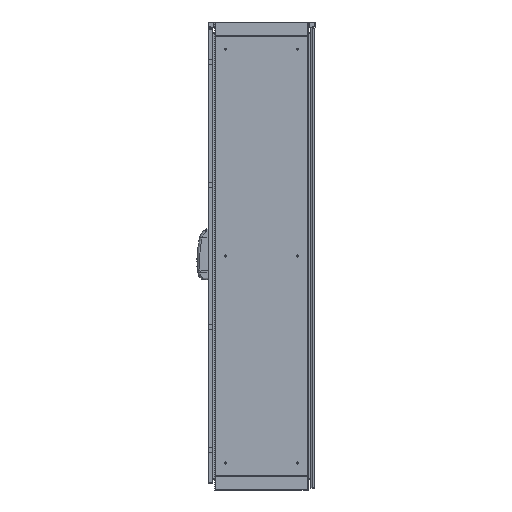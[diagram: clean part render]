
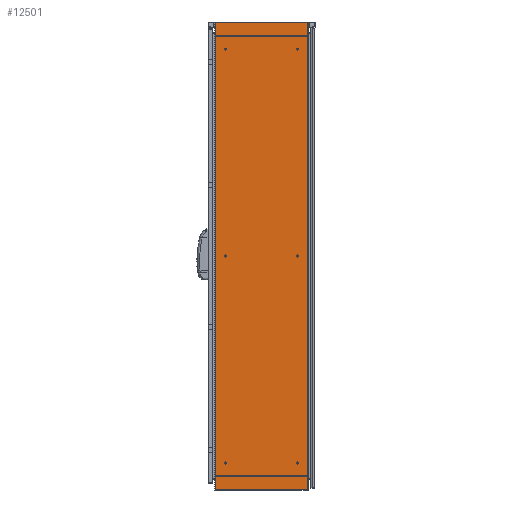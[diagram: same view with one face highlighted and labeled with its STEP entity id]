
A CAD part, left-side view. The second image highlights one B-rep face of the part: STEP entity #12501.
In plain terms, the highlighted planar face has unit normal (-1, 0, 0).
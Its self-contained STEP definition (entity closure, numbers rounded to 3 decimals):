
#1724 = VECTOR ( 'NONE', #23588, 1000. ) ;
#2579 = EDGE_CURVE ( 'NONE', #23163, #63247, #65718, .T. ) ;
#7769 = PLANE ( 'NONE',  #62103 ) ;
#9717 = LINE ( 'NONE', #16600, #54261 ) ;
#12501 = ADVANCED_FACE ( 'NONE', ( #74173 ), #7769, .F. ) ;
#14755 = VERTEX_POINT ( 'NONE', #39971 ) ;
#16600 = CARTESIAN_POINT ( 'NONE',  ( -500., 183.5, 0. ) ) ;
#18676 = CARTESIAN_POINT ( 'NONE',  ( -500., 183.5, 1809. ) ) ;
#21561 = CARTESIAN_POINT ( 'NONE',  ( -500., 179.43, 1809. ) ) ;
#23163 = VERTEX_POINT ( 'NONE', #24157 ) ;
#23277 = ORIENTED_EDGE ( 'NONE', *, *, #59232, .T. ) ;
#23588 = DIRECTION ( 'NONE',  ( 0., -1., 0. ) ) ;
#24157 = CARTESIAN_POINT ( 'NONE',  ( -500., -179.43, 0. ) ) ;
#28048 = DIRECTION ( 'NONE',  ( 0., 0., 1. ) ) ;
#30896 = LINE ( 'NONE', #54384, #1724 ) ;
#31274 = DIRECTION ( 'NONE',  ( 1., 0., 0. ) ) ;
#34200 = DIRECTION ( 'NONE',  ( 0., 0., -1. ) ) ;
#34450 = DIRECTION ( 'NONE',  ( 0., -1., 0. ) ) ;
#36615 = EDGE_CURVE ( 'NONE', #53487, #63247, #30896, .T. ) ;
#37791 = EDGE_CURVE ( 'NONE', #53487, #14755, #72237, .T. ) ;
#39971 = CARTESIAN_POINT ( 'NONE',  ( -500., 179.43, 0. ) ) ;
#40227 = CARTESIAN_POINT ( 'NONE',  ( -500., -179.43, 1809. ) ) ;
#43397 = DIRECTION ( 'NONE',  ( 0., 0., -1. ) ) ;
#46798 = ORIENTED_EDGE ( 'NONE', *, *, #36615, .F. ) ;
#53487 = VERTEX_POINT ( 'NONE', #21561 ) ;
#54261 = VECTOR ( 'NONE', #34450, 1000. ) ;
#54384 = CARTESIAN_POINT ( 'NONE',  ( -500., 183.5, 1809. ) ) ;
#59232 = EDGE_CURVE ( 'NONE', #14755, #23163, #9717, .T. ) ;
#59675 = CARTESIAN_POINT ( 'NONE',  ( -500., -179.43, 1809. ) ) ;
#60079 = CARTESIAN_POINT ( 'NONE',  ( -500., 179.43, 1809. ) ) ;
#62103 = AXIS2_PLACEMENT_3D ( 'NONE', #18676, #31274, #43397 ) ;
#62157 = EDGE_LOOP ( 'NONE', ( #23277, #77605, #46798, #74865 ) ) ;
#63247 = VERTEX_POINT ( 'NONE', #59675 ) ;
#65718 = LINE ( 'NONE', #40227, #66969 ) ;
#66969 = VECTOR ( 'NONE', #28048, 1000. ) ;
#67854 = VECTOR ( 'NONE', #34200, 1000. ) ;
#72237 = LINE ( 'NONE', #60079, #67854 ) ;
#74173 = FACE_OUTER_BOUND ( 'NONE', #62157, .T. ) ;
#74865 = ORIENTED_EDGE ( 'NONE', *, *, #37791, .T. ) ;
#77605 = ORIENTED_EDGE ( 'NONE', *, *, #2579, .T. ) ;
